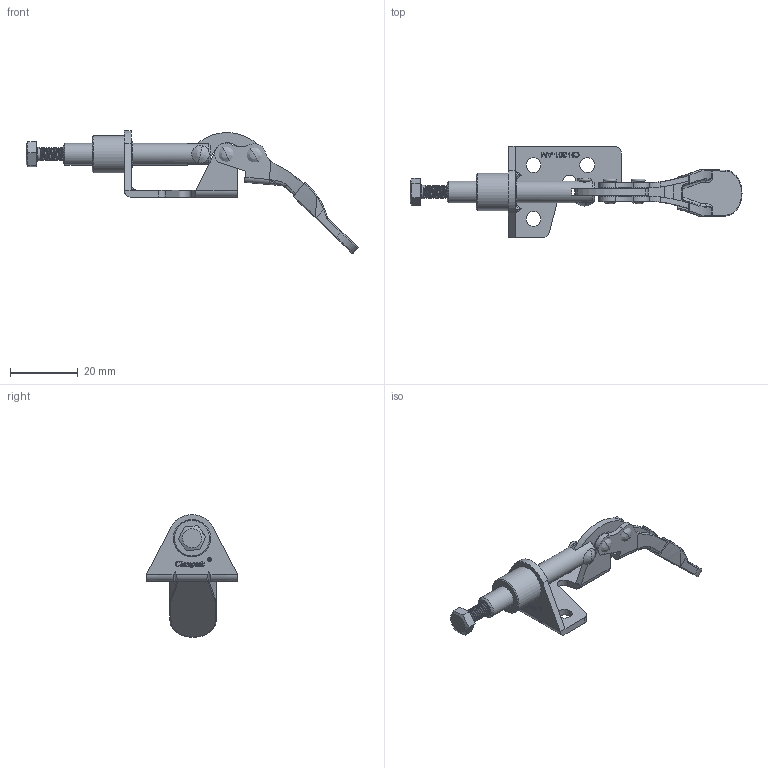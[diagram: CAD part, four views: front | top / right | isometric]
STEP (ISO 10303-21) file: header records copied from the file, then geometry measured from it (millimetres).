
FILE_DESCRIPTION(/* description */ ('STEP AP203'),/* implementation_level */ '2;1');
FILE_NAME(/* name */ 'D:\Vault_2016\Projekty\STRONA\Push-pull clamp\CH-301-AM\CH-301-AM_OTWARTY.stp',/* time_stamp */ '2019-01-10T11:42:44+01:00',/* author */ ('user'),/* organization */ ('Î¢ÈíÖÐ¹ú'),/* preprocessor_version */ 'ST-DEVELOPER v17.2',/* originating_system */ 'Autodesk Inventor 2019',/* authorisation */ '');
FILE_SCHEMA (('AUTOMOTIVE_DESIGN { 1 0 10303 214 3 1 1 }'));
Products named in the file (11): CH-301-AM_OTWARTY; CH-SA-042007 SPINDLE SUPPLIED; CH-301-AM-02 CREST STALK; CH-301-AM-05 LEAD SET; CH-301-AM-03 HANDLE; CH-301-03-01; CH-301-03-02; CH-301-07; CH-301-AM-04 CONNECTING-PLATE; CH-301-AM-01 BASE; CH-301-06
Assembly tree (11 placements, depth 3):
  CH-301-AM_OTWARTY
    CH-SA-042007 SPINDLE SUPPLIED
    CH-301-AM-02 CREST STALK
    CH-301-AM-05 LEAD SET
    CH-301-06  x2
    CH-301-AM-03 HANDLE
      CH-301-03-01
      CH-301-03-02
    CH-301-07
    CH-301-AM-04 CONNECTING-PLATE
    CH-301-AM-01 BASE
Bounding box: 98.01 x 27 x 36.27 mm (x, y, z)
Volume: 5565.1 mm3; surface area: 8880.9 mm2
Topology: 10 solids, 10 shells, 631 faces, 1749 edges, 1159 vertices
Faces by surface type: plane 251, bspline 208, cylinder 148, torus 12, cone 12
Full cylindrical faces by diameter (mm): 1.033 x1, 1.17 x1, 2.4 x1, 3 x12, 3.2 x21, 4 x26, 4.4 x3, 6.4 x2, 7.7 x2, 11 x1
Entity records: 46562 total; most frequent: CARTESIAN_POINT 31673, ORIENTED_EDGE 3438, DIRECTION 2309, EDGE_CURVE 1719, VERTEX_POINT 1147, LINE 873, VECTOR 873, AXIS2_PLACEMENT_3D 718
